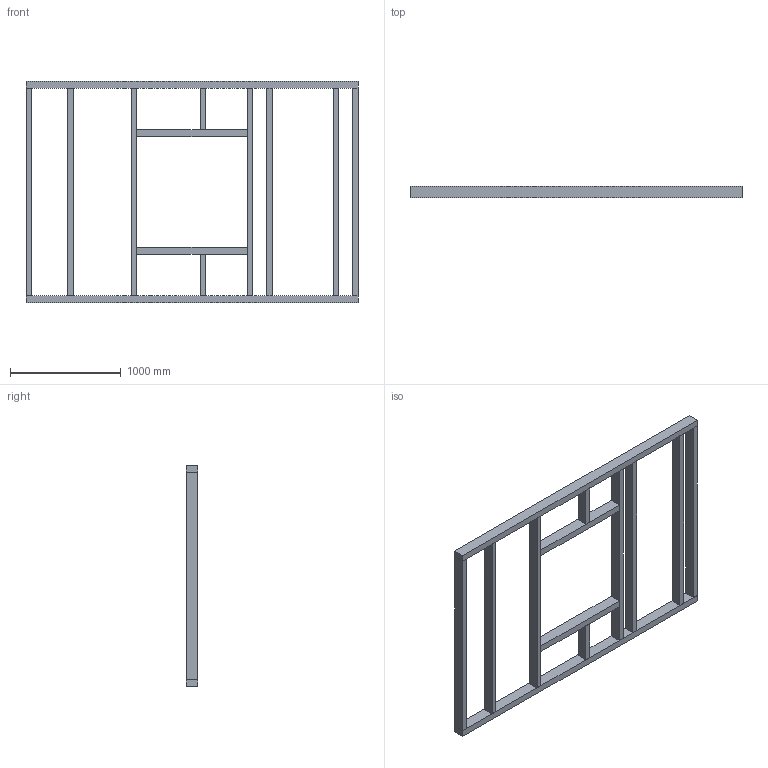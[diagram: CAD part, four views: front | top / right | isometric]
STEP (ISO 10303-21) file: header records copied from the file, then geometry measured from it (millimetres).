
FILE_DESCRIPTION(('Avelis Wall Flow profile-envelope coordination geometry'),'2;1');
FILE_NAME('OFFICIAL-IFC-WINDOW_CAND-02_profile_envelopes.step','2026-11-03T14:25:57',('Avelis Wall Flow'),('Imagine & Make 2026 - Bloc 1'),'Avelis Wall Flow 2.1','Avelis Wall Flow','ENGINEERING_REVIEW_REQUIRED');
FILE_SCHEMA(('CONFIG_CONTROL_DESIGN'));
Length unit declared in the file: millimetre
Products named in the file (1): CAND-02
Bounding box: 3000 x 104 x 2000 mm (x, y, z)
Volume: 121004000 mm3; surface area: 6962784 mm2
Topology: 13 solids, 13 shells, 78 faces, 156 edges, 104 vertices
Faces by surface type: plane 78
Entity records: 1734 total; most frequent: DIRECTION 314, ORIENTED_EDGE 312, VECTOR 156, LINE 156, EDGE_CURVE 156, CARTESIAN_POINT 105, VERTEX_POINT 104, AXIS2_PLACEMENT_3D 79
